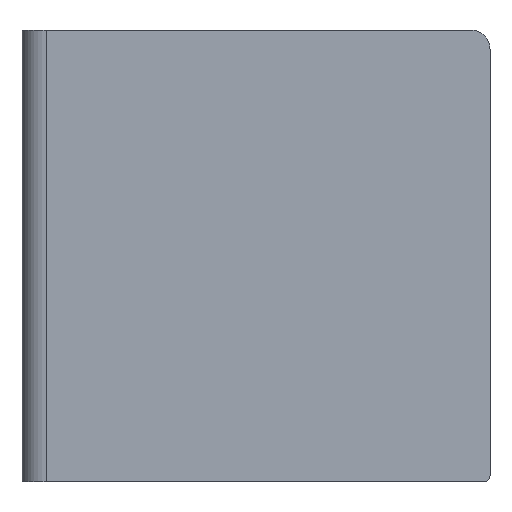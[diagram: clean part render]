
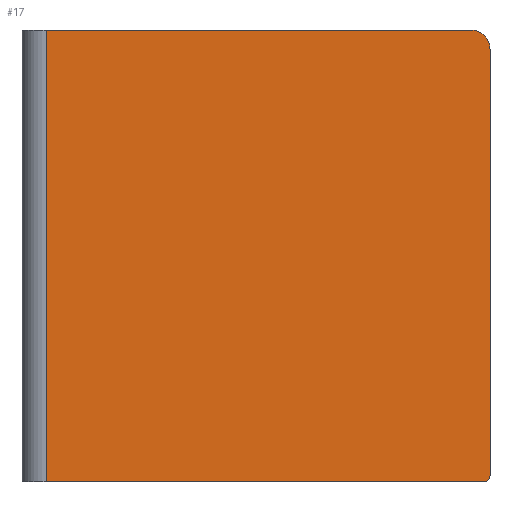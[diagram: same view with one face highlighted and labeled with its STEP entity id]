
A CAD part, left-side view. The second image highlights one B-rep face of the part: STEP entity #17.
In plain terms, the highlighted planar face has unit normal (-1, 0, 0).
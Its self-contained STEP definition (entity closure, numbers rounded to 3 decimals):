
#17 = ADVANCED_FACE('f000',(#18),#32,.F.);
#18 = FACE_BOUND('',#19,.F.);
#19 = EDGE_LOOP('',(#20,#55,#84,#112,#140,#168));
#20 = ORIENTED_EDGE('',*,*,#21,.F.);
#21 = EDGE_CURVE('',#22,#24,#26,.T.);
#22 = VERTEX_POINT('',#23);
#23 = CARTESIAN_POINT('',(0.,0.,0.363));
#24 = VERTEX_POINT('',#25);
#25 = CARTESIAN_POINT('',(0.,0.,24.991));
#26 = SURFACE_CURVE('',#27,(#31,#43),.PCURVE_S1.);
#27 = LINE('',#28,#29);
#28 = CARTESIAN_POINT('',(0.,0.,0.));
#29 = VECTOR('',#30,1.);
#30 = DIRECTION('',(0.,0.,1.));
#31 = PCURVE('',#32,#37);
#32 = PLANE('',#33);
#33 = AXIS2_PLACEMENT_3D('',#34,#35,#36);
#34 = CARTESIAN_POINT('',(0.,0.,0.));
#35 = DIRECTION('',(1.,0.,-0.));
#36 = DIRECTION('',(0.,0.,1.));
#37 = DEFINITIONAL_REPRESENTATION('',(#38),#42);
#38 = LINE('',#39,#40);
#39 = CARTESIAN_POINT('',(0.,0.));
#40 = VECTOR('',#41,1.);
#41 = DIRECTION('',(1.,0.));
#42 = ( GEOMETRIC_REPRESENTATION_CONTEXT(2) 
PARAMETRIC_REPRESENTATION_CONTEXT() REPRESENTATION_CONTEXT('2D SPACE',''
  ) );
#43 = PCURVE('',#44,#49);
#44 = PLANE('',#45);
#45 = AXIS2_PLACEMENT_3D('',#46,#47,#48);
#46 = CARTESIAN_POINT('',(0.,0.,0.));
#47 = DIRECTION('',(-0.,1.,0.));
#48 = DIRECTION('',(0.,0.,1.));
#49 = DEFINITIONAL_REPRESENTATION('',(#50),#54);
#50 = LINE('',#51,#52);
#51 = CARTESIAN_POINT('',(0.,0.));
#52 = VECTOR('',#53,1.);
#53 = DIRECTION('',(1.,0.));
#54 = ( GEOMETRIC_REPRESENTATION_CONTEXT(2) 
PARAMETRIC_REPRESENTATION_CONTEXT() REPRESENTATION_CONTEXT('2D SPACE',''
  ) );
#55 = ORIENTED_EDGE('',*,*,#56,.T.);
#56 = EDGE_CURVE('',#22,#57,#59,.T.);
#57 = VERTEX_POINT('',#58);
#58 = CARTESIAN_POINT('',(0.,0.363,0.));
#59 = SURFACE_CURVE('',#60,(#65,#72),.PCURVE_S1.);
#60 = CIRCLE('',#61,0.363);
#61 = AXIS2_PLACEMENT_3D('',#62,#63,#64);
#62 = CARTESIAN_POINT('',(0.,0.363,0.363));
#63 = DIRECTION('',(1.,0.,-0.));
#64 = DIRECTION('',(0.,0.,1.));
#65 = PCURVE('',#32,#66);
#66 = DEFINITIONAL_REPRESENTATION('',(#67),#71);
#67 = CIRCLE('',#68,0.363);
#68 = AXIS2_PLACEMENT_2D('',#69,#70);
#69 = CARTESIAN_POINT('',(0.363,-0.363));
#70 = DIRECTION('',(1.,0.));
#71 = ( GEOMETRIC_REPRESENTATION_CONTEXT(2) 
PARAMETRIC_REPRESENTATION_CONTEXT() REPRESENTATION_CONTEXT('2D SPACE',''
  ) );
#72 = PCURVE('',#73,#78);
#73 = CYLINDRICAL_SURFACE('',#74,0.363);
#74 = AXIS2_PLACEMENT_3D('',#75,#76,#77);
#75 = CARTESIAN_POINT('',(0.,0.363,0.363));
#76 = DIRECTION('',(1.,0.,-0.));
#77 = DIRECTION('',(0.,-1.,0.));
#78 = DEFINITIONAL_REPRESENTATION('',(#79),#83);
#79 = LINE('',#80,#81);
#80 = CARTESIAN_POINT('',(-1.571,0.));
#81 = VECTOR('',#82,1.);
#82 = DIRECTION('',(1.,0.));
#83 = ( GEOMETRIC_REPRESENTATION_CONTEXT(2) 
PARAMETRIC_REPRESENTATION_CONTEXT() REPRESENTATION_CONTEXT('2D SPACE',''
  ) );
#84 = ORIENTED_EDGE('',*,*,#85,.T.);
#85 = EDGE_CURVE('',#57,#86,#88,.T.);
#86 = VERTEX_POINT('',#87);
#87 = CARTESIAN_POINT('',(0.,25.646,0.));
#88 = SURFACE_CURVE('',#89,(#93,#100),.PCURVE_S1.);
#89 = LINE('',#90,#91);
#90 = CARTESIAN_POINT('',(0.,0.,0.));
#91 = VECTOR('',#92,1.);
#92 = DIRECTION('',(-0.,1.,0.));
#93 = PCURVE('',#32,#94);
#94 = DEFINITIONAL_REPRESENTATION('',(#95),#99);
#95 = LINE('',#96,#97);
#96 = CARTESIAN_POINT('',(0.,0.));
#97 = VECTOR('',#98,1.);
#98 = DIRECTION('',(0.,-1.));
#99 = ( GEOMETRIC_REPRESENTATION_CONTEXT(2) 
PARAMETRIC_REPRESENTATION_CONTEXT() REPRESENTATION_CONTEXT('2D SPACE',''
  ) );
#100 = PCURVE('',#101,#106);
#101 = PLANE('',#102);
#102 = AXIS2_PLACEMENT_3D('',#103,#104,#105);
#103 = CARTESIAN_POINT('',(0.,0.,0.));
#104 = DIRECTION('',(0.,0.,1.));
#105 = DIRECTION('',(1.,0.,-0.));
#106 = DEFINITIONAL_REPRESENTATION('',(#107),#111);
#107 = LINE('',#108,#109);
#108 = CARTESIAN_POINT('',(0.,0.));
#109 = VECTOR('',#110,1.);
#110 = DIRECTION('',(0.,1.));
#111 = ( GEOMETRIC_REPRESENTATION_CONTEXT(2) 
PARAMETRIC_REPRESENTATION_CONTEXT() REPRESENTATION_CONTEXT('2D SPACE',''
  ) );
#112 = ORIENTED_EDGE('',*,*,#113,.T.);
#113 = EDGE_CURVE('',#86,#114,#116,.T.);
#114 = VERTEX_POINT('',#115);
#115 = CARTESIAN_POINT('',(0.,25.646,
    26.107));
#116 = SURFACE_CURVE('',#117,(#121,#128),.PCURVE_S1.);
#117 = LINE('',#118,#119);
#118 = CARTESIAN_POINT('',(0.,25.646,0.));
#119 = VECTOR('',#120,1.);
#120 = DIRECTION('',(0.,0.,1.));
#121 = PCURVE('',#32,#122);
#122 = DEFINITIONAL_REPRESENTATION('',(#123),#127);
#123 = LINE('',#124,#125);
#124 = CARTESIAN_POINT('',(0.,-25.646));
#125 = VECTOR('',#126,1.);
#126 = DIRECTION('',(1.,0.));
#127 = ( GEOMETRIC_REPRESENTATION_CONTEXT(2) 
PARAMETRIC_REPRESENTATION_CONTEXT() REPRESENTATION_CONTEXT('2D SPACE',''
  ) );
#128 = PCURVE('',#129,#134);
#129 = CYLINDRICAL_SURFACE('',#130,1.394);
#130 = AXIS2_PLACEMENT_3D('',#131,#132,#133);
#131 = CARTESIAN_POINT('',(1.394,25.646,0.));
#132 = DIRECTION('',(0.,0.,1.));
#133 = DIRECTION('',(-1.,-0.,0.));
#134 = DEFINITIONAL_REPRESENTATION('',(#135),#139);
#135 = LINE('',#136,#137);
#136 = CARTESIAN_POINT('',(-0.,0.));
#137 = VECTOR('',#138,1.);
#138 = DIRECTION('',(-0.,1.));
#139 = ( GEOMETRIC_REPRESENTATION_CONTEXT(2) 
PARAMETRIC_REPRESENTATION_CONTEXT() REPRESENTATION_CONTEXT('2D SPACE',''
  ) );
#140 = ORIENTED_EDGE('',*,*,#141,.F.);
#141 = EDGE_CURVE('',#142,#114,#144,.T.);
#142 = VERTEX_POINT('',#143);
#143 = CARTESIAN_POINT('',(0.,1.116,26.107));
#144 = SURFACE_CURVE('',#145,(#149,#156),.PCURVE_S1.);
#145 = LINE('',#146,#147);
#146 = CARTESIAN_POINT('',(0.,0.,26.107));
#147 = VECTOR('',#148,1.);
#148 = DIRECTION('',(-0.,1.,0.));
#149 = PCURVE('',#32,#150);
#150 = DEFINITIONAL_REPRESENTATION('',(#151),#155);
#151 = LINE('',#152,#153);
#152 = CARTESIAN_POINT('',(26.107,0.));
#153 = VECTOR('',#154,1.);
#154 = DIRECTION('',(0.,-1.));
#155 = ( GEOMETRIC_REPRESENTATION_CONTEXT(2) 
PARAMETRIC_REPRESENTATION_CONTEXT() REPRESENTATION_CONTEXT('2D SPACE',''
  ) );
#156 = PCURVE('',#157,#162);
#157 = PLANE('',#158);
#158 = AXIS2_PLACEMENT_3D('',#159,#160,#161);
#159 = CARTESIAN_POINT('',(0.,0.,26.107));
#160 = DIRECTION('',(0.,0.,1.));
#161 = DIRECTION('',(1.,0.,-0.));
#162 = DEFINITIONAL_REPRESENTATION('',(#163),#167);
#163 = LINE('',#164,#165);
#164 = CARTESIAN_POINT('',(0.,0.));
#165 = VECTOR('',#166,1.);
#166 = DIRECTION('',(0.,1.));
#167 = ( GEOMETRIC_REPRESENTATION_CONTEXT(2) 
PARAMETRIC_REPRESENTATION_CONTEXT() REPRESENTATION_CONTEXT('2D SPACE',''
  ) );
#168 = ORIENTED_EDGE('',*,*,#169,.T.);
#169 = EDGE_CURVE('',#142,#24,#170,.T.);
#170 = SURFACE_CURVE('',#171,(#176,#183),.PCURVE_S1.);
#171 = CIRCLE('',#172,1.116);
#172 = AXIS2_PLACEMENT_3D('',#173,#174,#175);
#173 = CARTESIAN_POINT('',(0.,1.116,24.991));
#174 = DIRECTION('',(1.,0.,-0.));
#175 = DIRECTION('',(0.,0.,1.));
#176 = PCURVE('',#32,#177);
#177 = DEFINITIONAL_REPRESENTATION('',(#178),#182);
#178 = CIRCLE('',#179,1.116);
#179 = AXIS2_PLACEMENT_2D('',#180,#181);
#180 = CARTESIAN_POINT('',(24.991,-1.116));
#181 = DIRECTION('',(1.,0.));
#182 = ( GEOMETRIC_REPRESENTATION_CONTEXT(2) 
PARAMETRIC_REPRESENTATION_CONTEXT() REPRESENTATION_CONTEXT('2D SPACE',''
  ) );
#183 = PCURVE('',#184,#189);
#184 = CYLINDRICAL_SURFACE('',#185,1.116);
#185 = AXIS2_PLACEMENT_3D('',#186,#187,#188);
#186 = CARTESIAN_POINT('',(0.,1.116,24.991));
#187 = DIRECTION('',(1.,0.,-0.));
#188 = DIRECTION('',(0.,0.,1.));
#189 = DEFINITIONAL_REPRESENTATION('',(#190),#194);
#190 = LINE('',#191,#192);
#191 = CARTESIAN_POINT('',(0.,0.));
#192 = VECTOR('',#193,1.);
#193 = DIRECTION('',(1.,0.));
#194 = ( GEOMETRIC_REPRESENTATION_CONTEXT(2) 
PARAMETRIC_REPRESENTATION_CONTEXT() REPRESENTATION_CONTEXT('2D SPACE',''
  ) );
